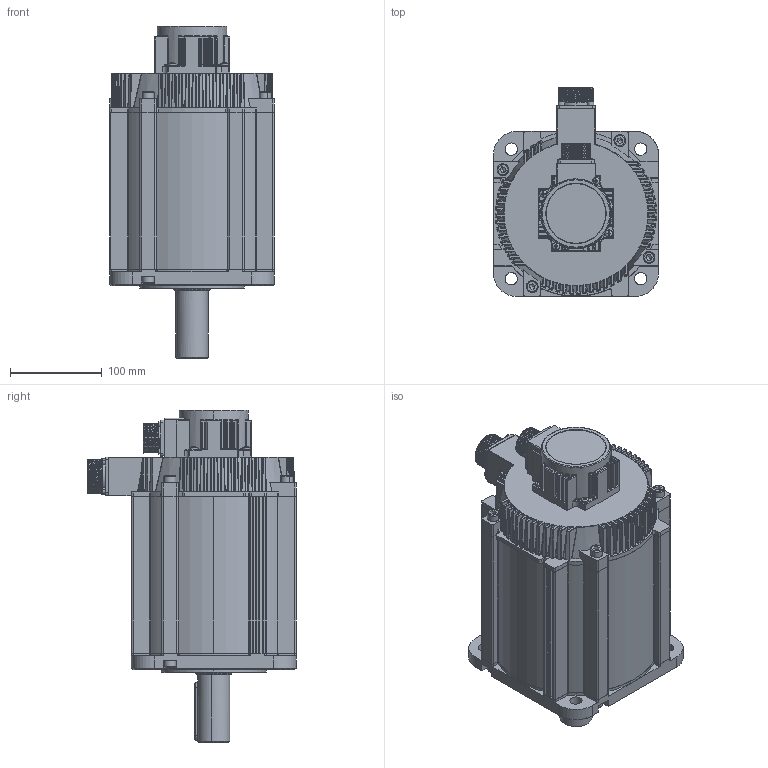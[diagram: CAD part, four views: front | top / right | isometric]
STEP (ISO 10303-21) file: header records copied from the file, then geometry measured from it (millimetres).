
FILE_DESCRIPTION (( 'STEP AP203' ), '1' );
FILE_NAME ('WB180ST-M48015 YD.STEP', '2022-09-06T10:27:34', ( '' ), ( '' ), 'SwSTEP 2.0', 'SolidWorks 2018', '' );
FILE_SCHEMA (( 'CONFIG_CONTROL_DESIGN' ));
Length unit declared in the file: millimetre
Products named in the file (1): WB180ST-M48015 YD
Bounding box: 180 x 227.5 x 362.4 mm (x, y, z)
Volume: 2018086.4 mm3; surface area: 616098.8 mm2
Topology: 34 solids, 34 shells, 2550 faces, 6437 edges, 3755 vertices
Faces by surface type: cylinder 826, plane 734, bspline 392, torus 219, cone 194, sphere 185
Entity records: 99053 total; most frequent: CARTESIAN_POINT 44154, ORIENTED_EDGE 12238, DIRECTION 10440, EDGE_CURVE 6119, AXIS2_PLACEMENT_3D 4351, VERTEX_POINT 3740, EDGE_LOOP 2727, FACE_OUTER_BOUND 2550
